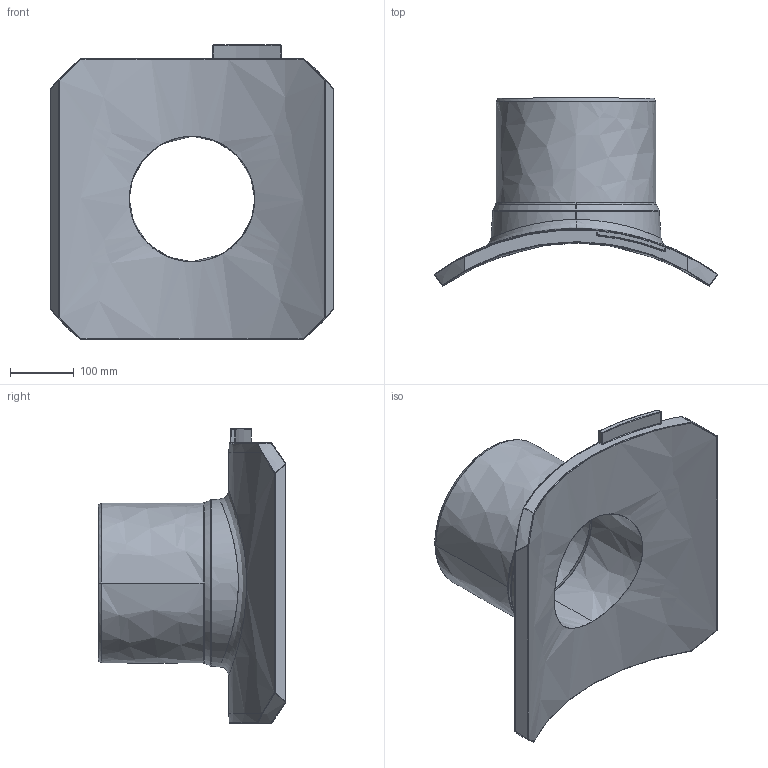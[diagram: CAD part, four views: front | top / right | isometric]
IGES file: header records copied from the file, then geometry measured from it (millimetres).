
Start section:  PTC IGES file: sa-uni_d710_250_01.igs
Global section: file name: sa-uni_d710_250_01.igs; native system: Creo Parametric by PTC Inc.; preprocessor: 2022124; author: mikulicp; organization: Unknown; date: 20240701.113045; units: millimetre
Bounding box: 442.3 x 293.37 x 460 mm (x, y, z)
Surface area: 680693 mm2 (no closed solid volume)
Topology: 0 solids, 0 shells, 239 faces, 1150 edges, 1150 vertices
Faces by surface type: bspline 239
